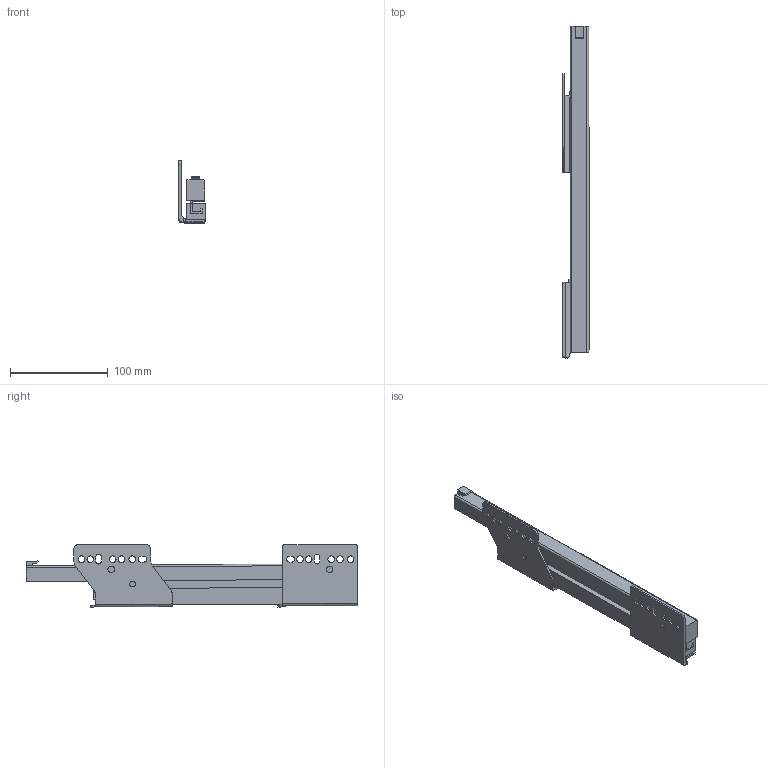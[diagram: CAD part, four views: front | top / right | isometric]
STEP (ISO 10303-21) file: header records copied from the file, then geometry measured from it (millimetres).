
FILE_DESCRIPTION (( 'STEP AP214' ), '1' );
FILE_NAME ('_IMOS_NOVA-Pro_KS_P904_LI_NL350_EB29.step', '2010-07-06T07:17:38', ( 'grass' ), ( '' ), 'SwSTEP 2.0', 'SolidWorks 2009', '' );
FILE_SCHEMA (( 'AUTOMOTIVE_DESIGN' ));
Length unit declared in the file: millimetre
Products named in the file (1): _IMOS_NOVA-Pro_KS_P904_LI_NL350_EB29
Bounding box: 26.75 x 340.39 x 64.46 mm (x, y, z)
Volume: 238471.2 mm3; surface area: 101968.6 mm2
Topology: 6 solids, 6 shells, 144 faces, 392 edges, 260 vertices
Faces by surface type: plane 89, cylinder 55
Entity records: 4691 total; most frequent: CARTESIAN_POINT 848, ORIENTED_EDGE 784, DIRECTION 765, EDGE_CURVE 392, LINE 275, VECTOR 275, VERTEX_POINT 260, AXIS2_PLACEMENT_3D 245
